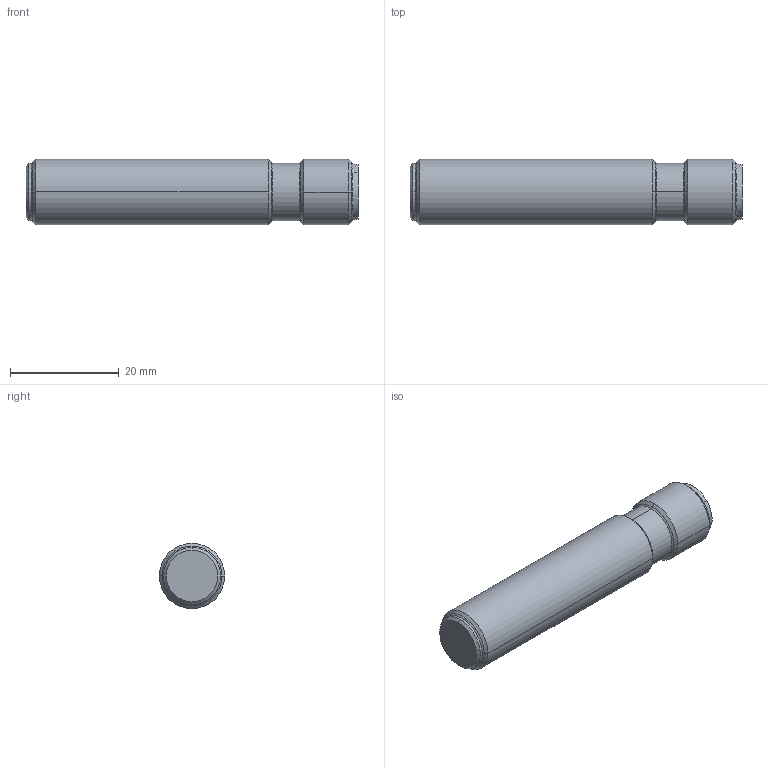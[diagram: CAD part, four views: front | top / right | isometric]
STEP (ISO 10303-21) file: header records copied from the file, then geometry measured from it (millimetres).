
FILE_DESCRIPTION((''),'2;1');
FILE_NAME('MDS_35_M12_SA_HT','2017-03-17T',('11000483'),(''),'CREO PARAMETRIC BY PTC INC, 2016050','CREO PARAMETRIC BY PTC INC, 2016050','');
FILE_SCHEMA(('AUTOMOTIVE_DESIGN { 1 0 10303 214 1 1 1 1 }'));
Length unit declared in the file: millimetre
Products named in the file (1): MDS_35_M12_SA_HT
Bounding box: 60.98 x 12 x 12 mm (x, y, z)
Volume: 2944.2 mm3; surface area: 6873.3 mm2
Topology: 1 solids, 5 shells, 194 faces, 499 edges, 313 vertices
Faces by surface type: cylinder 99, plane 40, cone 40, torus 15
Entity records: 9737 total; most frequent: CARTESIAN_POINT 1400, DIRECTION 1134, ORIENTED_EDGE 970, PRESENTATION_STYLE_ASSIGNMENT 684, STYLED_ITEM 494, CURVE_STYLE 491, EDGE_CURVE 491, AXIS2_PLACEMENT_3D 466
